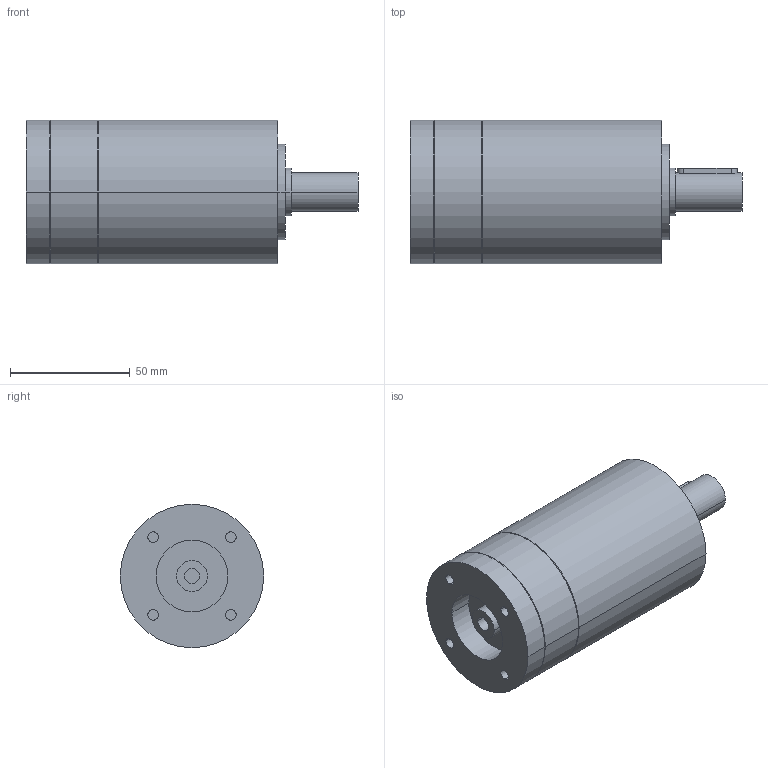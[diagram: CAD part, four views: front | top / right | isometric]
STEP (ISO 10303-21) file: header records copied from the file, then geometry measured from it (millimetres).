
FILE_DESCRIPTION(('CoCreate Modeling STEP Export'),'2;1');
FILE_NAME('GPR75_ig-9-12-16-20-24-30-36_16_B14_6.35_P21.stp','2014-08-25T16:04:12',(''),(''),'CoCreate Modeling STEP processor for AP214 (Solid Model)','CoCreate Modeling 16.00C 25-Feb-2009 (C) Parametric Technology GmbH','');
FILE_SCHEMA(('AUTOMOTIVE_DESIGN { 1 0 10303 214 1 1 1 1 }'));
Length unit declared in the file: millimetre
Products named in the file (2): GPR75_ig-9-12-16-20-24-30-36_16_B14_6.35_P21
Assembly tree (1 placements, depth 2):
  GPR75_ig-9-12-16-20-24-30-36_16_B14_6.35_P21
    GPR75_ig-9-12-16-20-24-30-36_16_B14_6.35_P21
Bounding box: 138.9 x 60 x 60 mm (x, y, z)
Volume: 299494.3 mm3; surface area: 31111.1 mm2
Topology: 1 solids, 1 shells, 77 faces, 195 edges, 139 vertices
Faces by surface type: cylinder 46, plane 25, cone 6
Entity records: 1961 total; most frequent: ORIENTED_EDGE 386, CARTESIAN_POINT 359, DIRECTION 254, EDGE_CURVE 193, VERTEX_POINT 139, AXIS2_PLACEMENT_3D 98, EDGE_LOOP 98, FACE_OUTER_BOUND 77
